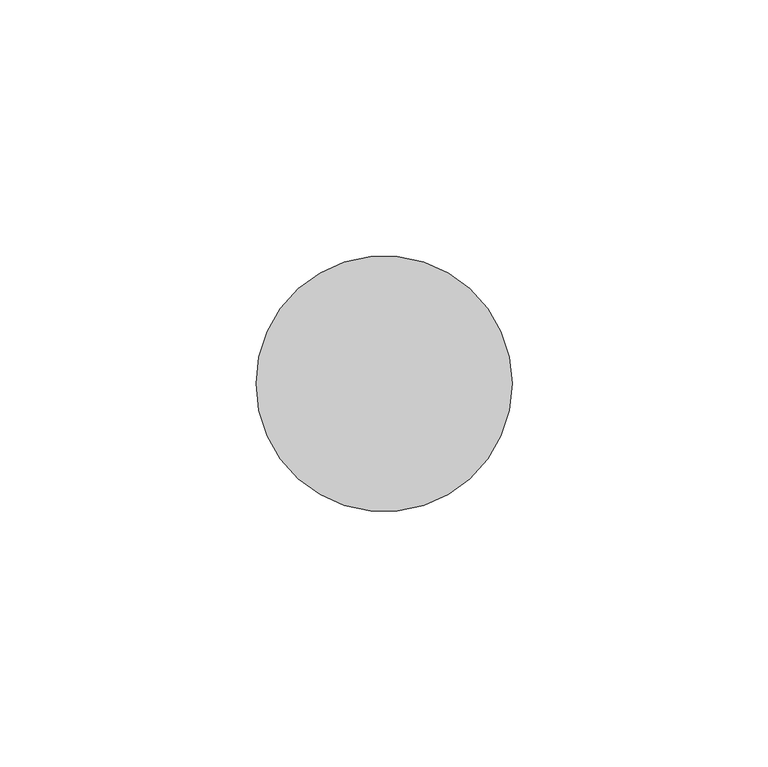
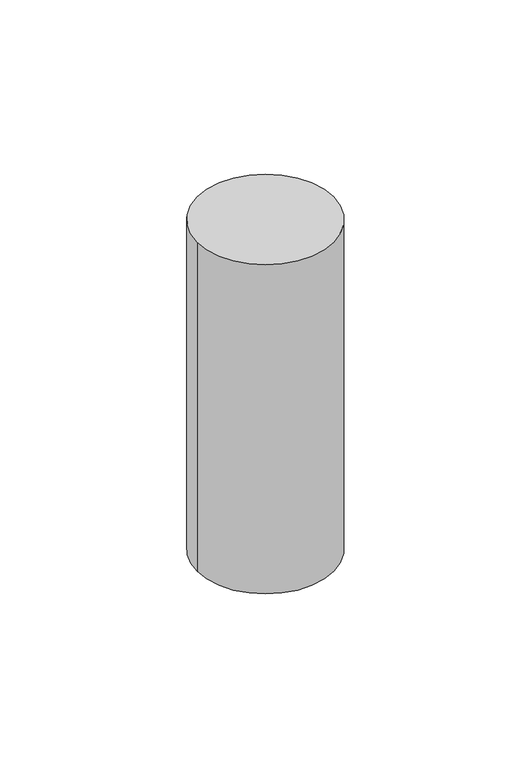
"""IFC4 building model written with IfcOpenShell, lengths in millimetres: member geometry, Импост круглого сечения : Радиус 25мм."""

from ifc_helpers import new_model, si_unit, point, frame, frame_2d, origin, place, context, project, spatial, circle_curve, trimmed, segment, composite_curve, outline, extrude, source, transform, mapped, element, save


def member_52f6bd63(model_context):
    return source(origin(), model_context, "Body", "SweptSolid", [
        extrude(outline(composite_curve([segment(trimmed(circle_curve(frame_2d((-25.0, 0.0)), 25.0), [point((0.0, 0.0))], [point((-50.0, 0.0))], False, "CARTESIAN"), True, "CONTINUOUS"), segment(trimmed(circle_curve(frame_2d((-25.0, 0.0)), 25.0), [point((-50.0, 0.0))], [point((0.0, 0.0))], False, "CARTESIAN"), True, "CONTINUOUS")], self_intersect=False)), frame((0.0, 0.0, -127.4004922), z_axis=(0.0, 0.0, 1.0), x_axis=(1.0, 0.0, 0.0)), (0.0, 0.0, 1.0), 127.4004922),
    ])


if __name__ == "__main__":
    model = new_model("IFC4")
    model_context = context("Model", 3, world=origin())
    ifc_project = project(units=[si_unit("LENGTHUNIT", "METRE", prefix="MILLI")], contexts=[model_context])
    site = spatial("IfcSite", under=ifc_project)
    building = spatial("IfcBuilding", under=site)
    placement = place(None, origin())
    member_shape = member_52f6bd63(model_context)
    element("IfcMember", 1, ObjectType="Импост круглого сечения : Радиус 25мм", at=placement, inside=building, context=model_context, shape_type="MappedRepresentation", body=[
        mapped(member_shape, transform((0.0, 0.0, 0.0), x_axis=(1.0, 0.0, 0.0), y_axis=(0.0, 1.0, 0.0), z_axis=(0.0, 0.0, 1.0))),
    ])
    save(model, "model.ifc")
